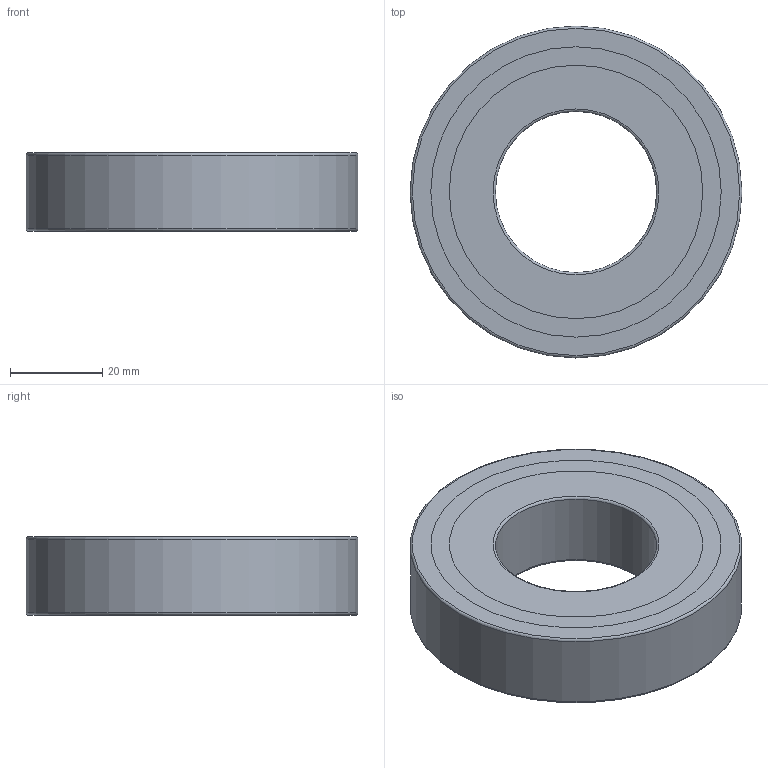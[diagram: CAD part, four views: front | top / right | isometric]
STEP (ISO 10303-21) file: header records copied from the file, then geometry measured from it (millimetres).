
FILE_DESCRIPTION(/* description */ (''),/* implementation_level */ '2;1');
FILE_NAME(/* name */ '301108 FK 6207-2RS.stp',/* time_stamp */ '2016-11-18T10:11:33+01:00',/* author */ (''),/* organization */ (''),/* preprocessor_version */ 'ST-DEVELOPER v15',/* originating_system */ 'SIEMENS PLM Software NX 8.5',/* authorisation */ '');
FILE_SCHEMA (('CONFIG_CONTROL_DESIGN'));
Length unit declared in the file: millimetre
Products named in the file (3): ATE0000079_01; ATE0000104_01; ATE0000105_01
Assembly tree (2 placements, depth 2):
  ATE0000105_01
    ATE0000104_01
    ATE0000079_01
Bounding box: 72 x 72 x 17 mm (x, y, z)
Volume: 45703.3 mm3; surface area: 23811.9 mm2
Topology: 4 solids, 4 shells, 72 faces, 156 edges, 102 vertices
Faces by surface type: plane 44, cylinder 22, torus 6
Full cylindrical faces by diameter (mm): 35 x1, 55 x4, 59 x1, 61 x1, 62 x2, 63 x4, 72 x1
Entity records: 2130 total; most frequent: DIRECTION 342, CARTESIAN_POINT 299, ORIENTED_EDGE 256, AXIS2_PLACEMENT_3D 139, EDGE_CURVE 128, EDGE_LOOP 112, VERTEX_POINT 96, ADVANCED_FACE 72
